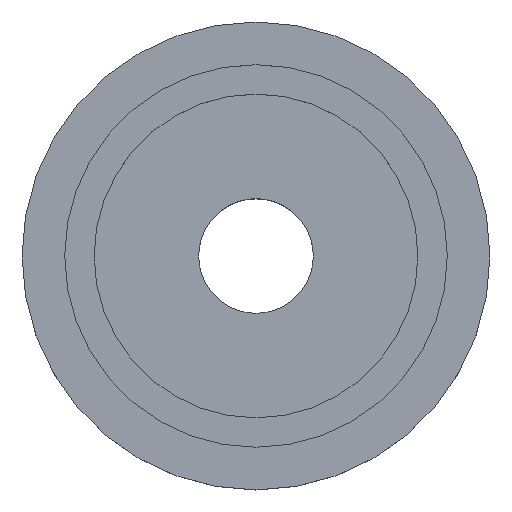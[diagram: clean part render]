
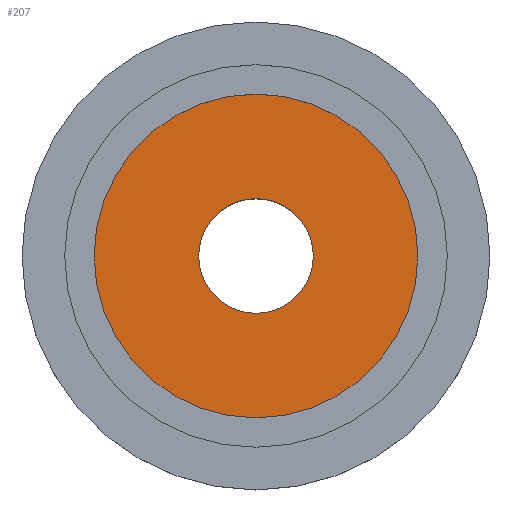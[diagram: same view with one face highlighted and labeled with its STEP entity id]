
A CAD part, top view. The second image highlights one B-rep face of the part: STEP entity #207.
In plain terms, the highlighted planar face has unit normal (0, 0, 1).
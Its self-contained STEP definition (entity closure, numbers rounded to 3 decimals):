
#1 = CARTESIAN_POINT ( 'NONE',  ( 0., 0., 0.9 ) ) ;
#6 = CARTESIAN_POINT ( 'NONE',  ( 1.95, 0., 0.9 ) ) ;
#16 = EDGE_LOOP ( 'NONE', ( #399, #225 ) ) ;
#17 = DIRECTION ( 'NONE',  ( 1., 0., 0. ) ) ;
#40 = DIRECTION ( 'NONE',  ( 1., 0., 0. ) ) ;
#48 = ORIENTED_EDGE ( 'NONE', *, *, #360, .T. ) ;
#54 = PLANE ( 'NONE',  #227 ) ;
#57 = DIRECTION ( 'NONE',  ( 0., 0., 1. ) ) ;
#58 = DIRECTION ( 'NONE',  ( 0., 0., 1. ) ) ;
#73 = EDGE_CURVE ( 'NONE', #301, #394, #113, .T. ) ;
#93 = CIRCLE ( 'NONE', #358, 1.95 ) ;
#95 = EDGE_CURVE ( 'NONE', #394, #301, #93, .T. ) ;
#99 = DIRECTION ( 'NONE',  ( 0., 0., 1. ) ) ;
#113 = CIRCLE ( 'NONE', #445, 1.95 ) ;
#128 = EDGE_CURVE ( 'NONE', #257, #367, #323, .T. ) ;
#138 = CIRCLE ( 'NONE', #337, 5.5 ) ;
#141 = CARTESIAN_POINT ( 'NONE',  ( 5.5, 0., 0.9 ) ) ;
#152 = AXIS2_PLACEMENT_3D ( 'NONE', #356, #298, #17 ) ;
#158 = CARTESIAN_POINT ( 'NONE',  ( 0., 0., 0.9 ) ) ;
#161 = FACE_BOUND ( 'NONE', #16, .T. ) ;
#167 = CARTESIAN_POINT ( 'NONE',  ( 0., 0., 0.9 ) ) ;
#201 = FACE_OUTER_BOUND ( 'NONE', #436, .T. ) ;
#207 = ADVANCED_FACE ( 'NONE', ( #161, #201 ), #54, .T. ) ;
#225 = ORIENTED_EDGE ( 'NONE', *, *, #73, .F. ) ;
#227 = AXIS2_PLACEMENT_3D ( 'NONE', #158, #57, #265 ) ;
#245 = DIRECTION ( 'NONE',  ( 1., 0., 0. ) ) ;
#248 = DIRECTION ( 'NONE',  ( 0., 0., 1. ) ) ;
#257 = VERTEX_POINT ( 'NONE', #441 ) ;
#265 = DIRECTION ( 'NONE',  ( 1., 0., 0. ) ) ;
#289 = ORIENTED_EDGE ( 'NONE', *, *, #128, .T. ) ;
#298 = DIRECTION ( 'NONE',  ( 0., 0., 1. ) ) ;
#301 = VERTEX_POINT ( 'NONE', #308 ) ;
#308 = CARTESIAN_POINT ( 'NONE',  ( -1.95, 0., 0.9 ) ) ;
#323 = CIRCLE ( 'NONE', #152, 5.5 ) ;
#337 = AXIS2_PLACEMENT_3D ( 'NONE', #1, #248, #40 ) ;
#356 = CARTESIAN_POINT ( 'NONE',  ( 0., 0., 0.9 ) ) ;
#358 = AXIS2_PLACEMENT_3D ( 'NONE', #412, #99, #245 ) ;
#360 = EDGE_CURVE ( 'NONE', #367, #257, #138, .T. ) ;
#367 = VERTEX_POINT ( 'NONE', #141 ) ;
#394 = VERTEX_POINT ( 'NONE', #6 ) ;
#399 = ORIENTED_EDGE ( 'NONE', *, *, #95, .F. ) ;
#403 = DIRECTION ( 'NONE',  ( 1., 0., 0. ) ) ;
#412 = CARTESIAN_POINT ( 'NONE',  ( 0., 0., 0.9 ) ) ;
#436 = EDGE_LOOP ( 'NONE', ( #48, #289 ) ) ;
#441 = CARTESIAN_POINT ( 'NONE',  ( -5.5, 0., 0.9 ) ) ;
#445 = AXIS2_PLACEMENT_3D ( 'NONE', #167, #58, #403 ) ;
